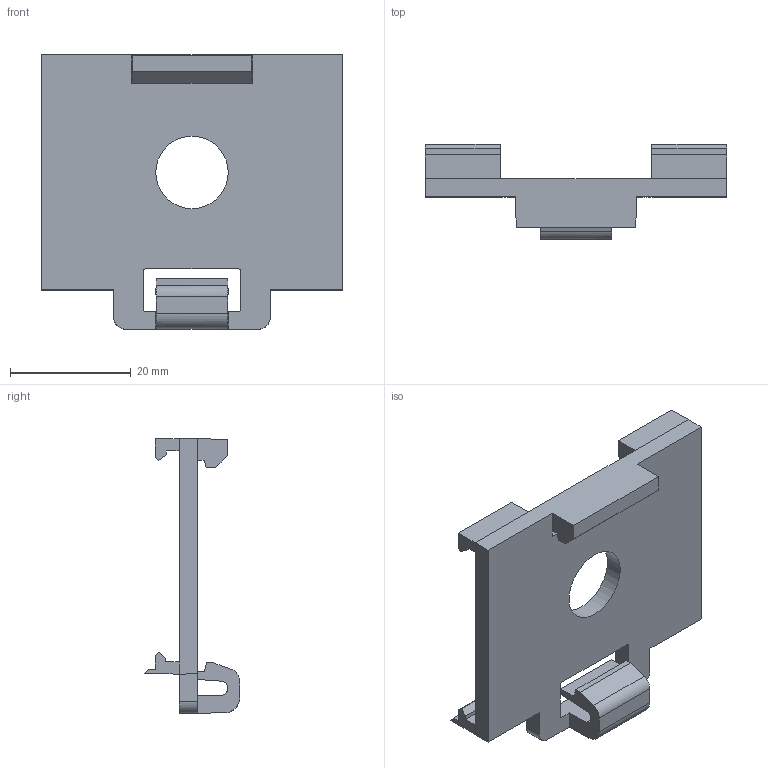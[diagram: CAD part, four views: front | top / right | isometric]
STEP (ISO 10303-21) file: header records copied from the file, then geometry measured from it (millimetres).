
FILE_DESCRIPTION (( 'STEP AP214' ), '1' );
FILE_NAME ('Schnappbefestigung_W60.STEP', '2016-09-26T06:36:57', ( 'User' ), ( 'Bender' ), 'SwSTEP 2.0', 'SolidWorks 2016', '' );
FILE_SCHEMA (( 'AUTOMOTIVE_DESIGN' ));
Length unit declared in the file: millimetre
Products named in the file (1): Schnappbefestigung_W60
Bounding box: 50 x 15.76 x 45.5 mm (x, y, z)
Surface area: 6050.3 mm2 (no closed solid volume)
Topology: 0 solids, 1 shells, 79 faces, 229 edges, 148 vertices
Faces by surface type: plane 68, cylinder 11
Full cylindrical faces by diameter (mm): 12 x1
Entity records: 3432 total; most frequent: CARTESIAN_POINT 504, ORIENTED_EDGE 448, DIRECTION 378, EDGE_CURVE 228, VECTOR 206, LINE 206, VERTEX_POINT 148, AXIS2_PLACEMENT_3D 86
